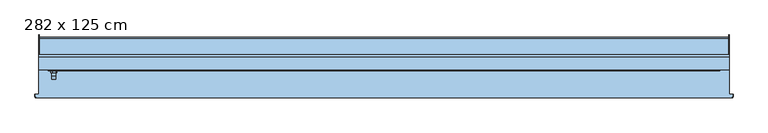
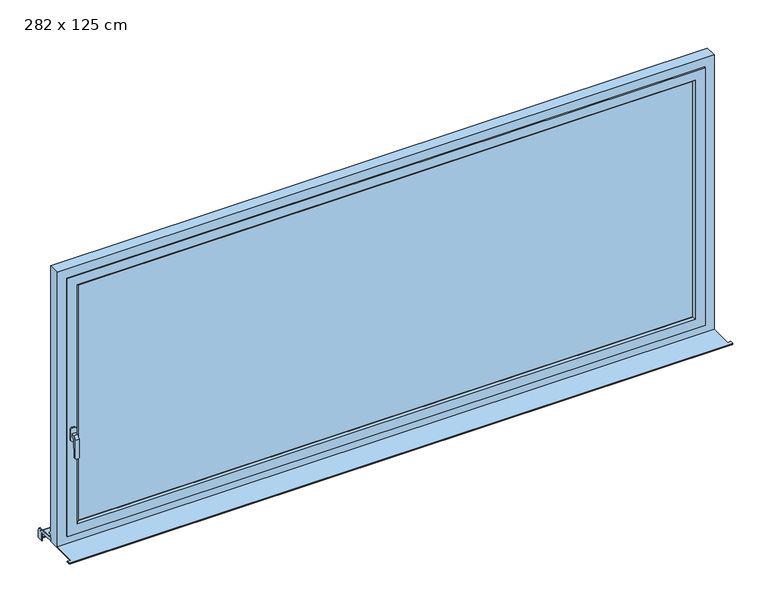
"""IFC4 building model written with IfcOpenShell, lengths in millimetres: window geometry, Fenêtre type 1 : 282 x 125 cm."""

from ifc_helpers import new_model, si_unit, frame, origin, place, context, project, spatial, polyline, circle_curve, outline, extrude, faceted_brep, source, transform, mapped, element, save
from ifc_brep_helpers import plane_surface, cylinder_surface, revolved_surface, advanced_brep


def window_282_x_125_cm_d0343028(model_context):
    return source(origin(), model_context, "Body", "SolidModel", [
        faceted_brep([(-1355.5, -13.0, 1306.0), (-1339.5, -13.0, 1306.0), (-1339.5, -13.0, 1294.0), (-1355.5, -13.0, 1294.0), (-1355.5, -25.4852814, 1306.0), (-1339.5, -25.4852814, 1306.0), (-1339.5, -39.0, 1292.4852814), (-1339.5, -39.0, 1208.5355339), (-1339.5, -29.7580139, 1208.5355339), (-1339.5, -27.0099909, 1287.2286157), (-1339.5, -27.0, 1287.5147186), (-1339.5, -20.5147186, 1294.0), (-1355.5, -20.5147186, 1294.0), (-1355.5, -27.0, 1287.5147186), (-1355.5, -27.0, 1287.2282668), (-1355.5, -29.7580139, 1208.5355339), (-1355.5, -39.0, 1208.5355339), (-1355.5, -39.0, 1292.4852814), (-1343.0355339, -39.0, 1205.0), (-1351.9644661, -39.0, 1205.0), (-1351.9644661, -29.8814775, 1205.0), (-1343.0355339, -29.8814775, 1205.0)], [[[0, 1, 2, 3]], [[1, 0, 4, 5]], [[2, 1, 5, 6, 7, 8, 9, 10, 11]], [[3, 2, 11, 12]], [[0, 3, 12, 13, 14, 15, 16, 17, 4]], [[5, 4, 17, 6]], [[11, 10, 13, 12]], [[18, 19, 20, 21]], [[6, 17, 16, 19, 18, 7]], [[13, 10, 9, 14]], [[14, 9, 8, 21, 20, 15]], [[8, 7, 18, 21]], [[16, 15, 20, 19]]]),
        extrude(outline(polyline([(1330.0, -1354.5), (1325.0, -1359.5), (1275.0, -1359.5), (1270.0, -1354.5), (1270.0, -1340.5), (1275.0, -1335.5), (1325.0, -1335.5), (1330.0, -1340.5), (1330.0, -1354.5)])), frame((0.0, -13.0, 0.0), z_axis=(0.0, 1.0, 0.0), x_axis=(0.0, 0.0, 1.0)), (0.0, 0.0, 1.0), 8.0),
        advanced_brep(
        [(-1410.0, 115.0, 762.0), (-1410.0, 115.0, 799.2138833), (-1410.0, 50.0, 802.620389), (-1410.0, 50.0, 814.1361709), (-1410.0, 127.2850393, 810.0858337), (-1410.0, 141.5, 795.1063906), (-1410.0, 141.5, 762.0), (1410.0, 115.0, 799.2138833), (1410.0, 115.0, 762.0), (1410.0, 141.5, 762.0), (1410.0, 141.5, 795.1063906), (1410.0, 127.2850393, 810.0858337), (1410.0, 50.0, 814.1361709), (1410.0, 50.0, 802.620389), (-1408.0, 50.0, 814.1361709), (1408.0, 50.0, 814.1361709), (1408.0, 50.0, 804.1224475), (-1408.0, 50.0, 804.1224475), (-1408.0, 126.7616798, 800.0995383), (1408.0, 126.7616798, 800.0995383), (1408.0, 131.5, 795.1063906), (1408.0, 131.5, 762.0), (-1408.0, 131.5, 762.0), (-1408.0, 131.5, 795.1063906), (-1408.0, 130.0, 762.0), (-1408.0, 115.0, 762.0), (-1408.0, 141.5, 762.0), (1408.0, 141.5, 762.0), (1408.0, 115.0, 762.0), (1408.0, 130.0, 762.0), (-1408.0, 120.0, 772.0), (1408.0, 120.0, 772.0), (-1408.0, 121.0606602, 773.0606602), (1408.0, 121.0606602, 773.0606602), (-1408.0, 130.0, 764.1213203), (1408.0, 130.0, 764.1213203), (-1408.0, 130.0, 795.0728058), (1408.0, 130.0, 795.0728058), (-1408.0, 115.0, 799.2138833), (-1408.0, 126.649637, 798.6033517), (1408.0, 126.649637, 798.6033517), (1408.0, 115.0, 799.2138833), (1408.0, 127.2850393, 810.0858337), (1408.0, 141.5, 795.1063906), (-1408.0, 141.5, 795.1063906), (-1408.0, 127.2850393, 810.0858337)],
        [
            (0, 1),
            (1, 2),
            (2, 3),
            (3, 4),
            (4, 5, circle_curve(frame((-1410.0, 126.5, 795.1063906), z_axis=(-1.0, 0.0, 0.0), x_axis=(0.0, 0.05233595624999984, 0.9986295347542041)), 15.0)),
            (5, 6),
            (6, 0),
            (7, 8),
            (8, 9),
            (9, 10),
            (10, 11, circle_curve(frame((1410.0, 126.5, 795.1063906), z_axis=(1.0, 0.0, 0.0), x_axis=(0.0, 1.0, 0.0)), 15.0)),
            (11, 12),
            (12, 13),
            (13, 7),
            (14, 3),
            (2, 13),
            (12, 15),
            (15, 16),
            (16, 17),
            (17, 14),
            (18, 17),
            (16, 19),
            (19, 18),
            (20, 21),
            (21, 22),
            (22, 23),
            (23, 20),
            (24, 25),
            (25, 0),
            (6, 26),
            (26, 22),
            (21, 27),
            (27, 9),
            (8, 28),
            (28, 29),
            (29, 24),
            (30, 24),
            (29, 31),
            (31, 30),
            (32, 30),
            (31, 33),
            (33, 32),
            (34, 32),
            (33, 35),
            (35, 34),
            (36, 34),
            (35, 37),
            (37, 36),
            (38, 39),
            (39, 40),
            (40, 41),
            (41, 7),
            (1, 38),
            (38, 25),
            (36, 39, circle_curve(frame((-1408.0, 126.4646089, 795.0728058), z_axis=(1.0, 0.0, 0.0), x_axis=(0.0, -1.0, 0.0)), 3.5353911)),
            (28, 41),
            (40, 37, circle_curve(frame((1408.0, 126.4646089, 795.0728058), z_axis=(-1.0, 0.0, 0.0), x_axis=(0.0, -1.0, 0.0)), 3.5353911)),
            (19, 20, circle_curve(frame((1408.0, 126.5, 795.1063906), z_axis=(-1.0, 0.0, 0.0), x_axis=(0.0, -1.0, 0.0)), 5.0)),
            (23, 18, circle_curve(frame((-1408.0, 126.5, 795.1063906), z_axis=(1.0, 0.0, 0.0), x_axis=(0.0, -1.0, 0.0)), 5.0)),
            (15, 42),
            (42, 43, circle_curve(frame((1408.0, 126.5, 795.1063906), z_axis=(-1.0, 0.0, 0.0), x_axis=(0.0, 1.0, 0.0)), 15.0)),
            (43, 27),
            (43, 10),
            (42, 11),
            (26, 44),
            (44, 45, circle_curve(frame((-1408.0, 126.5, 795.1063906), z_axis=(1.0, 0.0, 0.0), x_axis=(0.0, 0.05233595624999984, 0.9986295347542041)), 15.0)),
            (45, 14),
            (45, 4),
            (44, 5),
        ],
        [
            plane_surface(frame((-1410.0, 50.0, 802.620389), z_axis=(-1.0, 0.0, 0.0), x_axis=(0.0, 0.0, 1.0))),
            plane_surface(frame((1410.0, 50.0, 802.620389), z_axis=(1.0, 0.0, 0.0), x_axis=(0.0, 0.0, -1.0))),
            plane_surface(frame((-1410.0, 50.0, 802.620389), z_axis=(0.0, -1.0, 0.0), x_axis=(1.0, 0.0, 0.0))),
            plane_surface(frame((-1410.0, 50.0, 804.1224475), z_axis=(0.0, 0.05233595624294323, 0.9986295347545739), x_axis=(1.0, 0.0, 0.0))),
            plane_surface(frame((-1410.0, 131.5, 795.1063906), z_axis=(0.0, 1.0, 0.0), x_axis=(1.0, 0.0, 0.0))),
            plane_surface(frame((-1410.0, 131.5, 762.0), z_axis=(0.0, 0.0, -1.0), x_axis=(1.0, 0.0, 0.0))),
            plane_surface(frame((-1410.0, 130.0, 762.0), z_axis=(0.0, -0.7071067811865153, -0.7071067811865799), x_axis=(1.0, 0.0, 0.0))),
            plane_surface(frame((-1410.0, 120.0, 772.0), z_axis=(0.0, -0.7071067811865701, 0.707106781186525), x_axis=(1.0, 0.0, 0.0))),
            plane_surface(frame((-1410.0, 121.0606602, 773.0606602), z_axis=(0.0, 0.7071067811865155, 0.7071067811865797), x_axis=(1.0, 0.0, 0.0))),
            plane_surface(frame((-1410.0, 130.0, 764.1213203), z_axis=(0.0, -1.0, 0.0), x_axis=(1.0, 0.0, 0.0))),
            plane_surface(frame((-1410.0, 126.649637, 798.6033517), z_axis=(0.0, -0.05233595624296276, -0.998629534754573), x_axis=(1.0, 0.0, 0.0))),
            plane_surface(frame((-1408.0, 130.0, 798.4277666), z_axis=(1.0, 0.0, 0.0), x_axis=(0.0, -0.9986295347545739, 0.05233595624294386))),
            plane_surface(frame((-1410.0, 115.0, 762.0), z_axis=(0.0, -1.0, 0.0), x_axis=(1.0, 0.0, 0.0))),
            plane_surface(frame((1408.0, 130.0, 798.4277666), z_axis=(-1.0, 0.0, 0.0), x_axis=(0.0, 0.0, -1.0))),
            plane_surface(frame((1408.0, 115.0, 762.0), z_axis=(0.0, -1.0, 0.0), x_axis=(1.0, 0.0, 0.0))),
            cylinder_surface(frame((1410.0, 126.5, 795.1063906), z_axis=(-1.0, 0.0, 0.0), x_axis=(0.0, -1.0, 0.0)), 5.0),
            revolved_surface(polyline([(1408.0, 122.9292178, 795.0728058), (-1408.0, 122.9292178, 795.0728058)]), (1410.0, 126.4646089, 795.0728058), (1.0, 0.0, 0.0)),
            plane_surface(frame((1408.0, 131.5, 762.0), z_axis=(-1.0, 0.0, 0.0), x_axis=(0.0, 0.0, 1.0))),
            plane_surface(frame((1408.0, 141.5, 762.0), z_axis=(0.0, 1.0, 0.0), x_axis=(0.0, 0.0, 1.0))),
            cylinder_surface(frame((1410.0, 126.5, 795.1063906), z_axis=(1.0, 0.0, 0.0), x_axis=(0.0, 1.0, 0.0)), 15.0),
            plane_surface(frame((1408.0, 127.2850393, 810.0858337), z_axis=(0.0, 0.05233595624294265, 0.9986295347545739), x_axis=(0.0, -0.9986295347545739, 0.05233595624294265))),
            plane_surface(frame((-1408.0, 50.0, 814.1361709), z_axis=(1.0, 0.0, 0.0), x_axis=(0.0, -0.9986295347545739, 0.05233595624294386))),
            plane_surface(frame((-1410.0, 50.0, 814.1361709), z_axis=(0.0, 0.05233595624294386, 0.9986295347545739), x_axis=(1.0, 0.0, 0.0))),
            cylinder_surface(frame((-1410.0, 126.5, 795.1063906), z_axis=(-1.0, 0.0, 0.0), x_axis=(0.0, 0.05233595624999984, 0.9986295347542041)), 15.0),
            plane_surface(frame((-1408.0, 141.5, 795.1063906), z_axis=(0.0, 1.0, 0.0), x_axis=(0.0, 0.0, -1.0))),
        ],
        [
            (0, [[1, 2, 3, 4, 5, 6, 7]]),
            (1, [[8, 9, 10, 11, 12, 13, 14]]),
            (2, [[15, -3, 16, -13, 17, 18, 19, 20]]),
            (3, [[21, -19, 22, 23]]),
            (4, [[24, 25, 26, 27]]),
            (5, [[28, 29, -7, 30, 31, -25, 32, 33, -9, 34, 35, 36]]),
            (6, [[37, -36, 38, 39]]),
            (7, [[40, -39, 41, 42]]),
            (8, [[43, -42, 44, 45]]),
            (9, [[46, -45, 47, 48]]),
            (10, [[49, 50, 51, 52, -14, -16, -2, 53]]),
            (11, [[54, -28, -37, -40, -43, -46, 55, -49]]),
            (12, [[-54, -53, -1, -29]]),
            (13, [[-35, 56, -51, 57, -47, -44, -41, -38]]),
            (14, [[-56, -34, -8, -52]]),
            (15, [[58, -27, 59, -23]]),
            (16, [[-55, -48, -57, -50]]),
            (17, [[-32, -24, -58, -22, -18, 60, 61, 62]]),
            (18, [[-33, -62, 63, -10]]),
            (19, [[-11, -63, -61, 64]]),
            (20, [[-64, -60, -17, -12]]),
            (21, [[-20, -21, -59, -26, -31, 65, 66, 67]]),
            (22, [[-4, -15, -67, 68]]),
            (23, [[-5, -68, -66, 69]]),
            (24, [[-6, -69, -65, -30]]),
        ],
    ),
        extrude(outline(polyline([(-1320.0, 5.0), (-1320.0, 25.0), (1320.0, 25.0), (1320.0, 5.0), (-1320.0, 5.0)])), frame((0.0, 0.0, 890.0), z_axis=(0.0, 0.0, 1.0), x_axis=(1.0, 0.0, 0.0)), (0.0, 0.0, 1.0), 1070.0),
        faceted_brep([(-1370.0, -5.0, 840.0), (-1370.0, 35.0, 840.0), (1370.0, 35.0, 840.0), (1370.0, -5.0, 840.0), (1370.0, 35.0, 2010.0), (1370.0, -5.0, 2010.0), (-1370.0, 35.0, 2010.0), (1327.0710678, 35.0, 1967.0710678), (-1327.0710678, 35.0, 1967.0710678), (-1327.0710678, 35.0, 882.9289322), (1327.0710678, 35.0, 882.9289322), (-1370.0, -5.0, 2010.0), (1327.0710678, -5.0, 882.9289322), (-1327.0710678, -5.0, 882.9289322), (-1327.0710678, -5.0, 1967.0710678), (1327.0710678, -5.0, 1967.0710678), (-1320.0, 2.0710678, 890.0), (1320.0, 2.0710678, 890.0), (1320.0, 2.0710678, 1960.0), (1320.0, 27.9289322, 890.0), (1320.0, 27.9289322, 1960.0), (-1320.0, 27.9289322, 890.0), (-1320.0, 2.0710678, 1960.0), (-1320.0, 27.9289322, 1960.0)], [[[0, 1, 2, 3]], [[3, 2, 4, 5]], [[2, 1, 6, 4], [7, 8, 9, 10]], [[5, 11, 0, 3], [12, 13, 14, 15]], [[16, 13, 12, 17]], [[17, 12, 15, 18]], [[19, 17, 18, 20]], [[9, 21, 19, 10]], [[10, 19, 20, 7]], [[11, 6, 1, 0]], [[22, 14, 13, 16]], [[23, 22, 16, 21]], [[8, 23, 21, 9]], [[21, 16, 17, 19]], [[5, 4, 6, 11]], [[18, 15, 14, 22]], [[7, 20, 23, 8]], [[20, 18, 22, 23]]]),
        faceted_brep([(1410.0, 50.0, 800.0), (1410.0, 50.0, 830.0), (1410.0, 60.0, 830.0), (1410.0, 60.0, 835.0), (1410.0, 50.0, 845.0), (1410.0, 50.0, 2050.0), (1410.0, 0.0, 2050.0), (1410.0, 0.0, 800.0), (-1410.0, 50.0, 800.0), (-1410.0, 50.0, 830.0), (-1410.0, 60.0, 830.0), (-1410.0, 60.0, 835.0), (-1410.0, 50.0, 845.0), (-1365.0, 50.0, 845.0), (-1360.0, 45.0, 850.0), (1360.0, 45.0, 850.0), (1365.0, 50.0, 845.0), (-1410.0, 50.0, 2050.0), (1365.0, 50.0, 2005.0), (-1365.0, 50.0, 2005.0), (-1410.0, 0.0, 2050.0), (-1410.0, 0.0, 800.0), (1370.0, 0.0, 840.0), (-1370.0, 0.0, 840.0), (-1370.0, 0.0, 2010.0), (1370.0, 0.0, 2010.0), (1370.0, 35.0, 840.0), (-1370.0, 35.0, 840.0), (-1370.0, 35.0, 2010.0), (1370.0, 35.0, 2010.0), (1360.0, 35.0, 850.0), (-1360.0, 35.0, 850.0), (-1360.0, 35.0, 2000.0), (1360.0, 35.0, 2000.0), (-1360.0, 45.0, 2000.0), (1360.0, 45.0, 2000.0)], [[[0, 1, 2, 3, 4, 5, 6, 7]], [[1, 0, 8, 9]], [[2, 1, 9, 10]], [[3, 2, 10, 11]], [[3, 11, 12, 13, 14, 15, 16, 4]], [[17, 5, 4, 16, 18, 19, 13, 12]], [[7, 6, 20, 21], [22, 23, 24, 25]], [[0, 7, 21, 8]], [[8, 21, 20, 17, 12, 11, 10, 9]], [[23, 22, 26, 27]], [[27, 28, 24, 23]], [[22, 25, 29, 26]], [[29, 28, 27, 26], [30, 31, 32, 33]], [[31, 30, 15, 14]], [[34, 32, 31, 14]], [[33, 35, 15, 30]], [[35, 18, 16, 15]], [[19, 34, 14, 13]], [[5, 17, 20, 6]], [[28, 29, 25, 24]], [[33, 32, 34, 35]], [[19, 18, 35, 34]]]),
        advanced_brep(
        [(1410.0, -100.0, 805.0), (1410.0, 0.0, 805.0), (-1410.0, 0.0, 805.0), (-1410.0, -100.0, 805.0), (-1423.9971508, -100.0, 805.0), (-1423.9971508, -110.0, 805.0), (-1420.0, -113.9971508, 805.0), (1420.0, -113.9971508, 805.0), (1423.9971508, -110.0, 805.0), (1423.9971508, -100.0, 805.0), (-1410.0, -100.0, 800.0), (-1410.0, 0.0, 800.0), (1410.0, 0.0, 800.0), (1410.0, -100.0, 800.0), (1423.9971508, -100.0, 800.0), (1423.9971508, -110.0, 800.0), (1420.0, -113.9971508, 800.0), (-1420.0, -113.9971508, 800.0), (-1423.9971508, -110.0, 800.0), (-1423.9971508, -100.0, 800.0), (-1425.0, -110.0, 801.0028492), (-1425.0, -110.0, 803.9971508), (-1425.0, -100.0, 803.9971508), (-1425.0, -100.0, 801.0028492), (1425.0, -100.0, 803.9971508), (1425.0, -100.0, 801.0028492), (1425.0, -110.0, 803.9971508), (1425.0, -110.0, 801.0028492), (1420.0, -115.0, 801.0028492), (1420.0, -115.0, 803.9971508), (-1420.0, -115.0, 803.9971508), (-1420.0, -115.0, 801.0028492)],
        [
            (0, 1),
            (1, 2),
            (2, 3),
            (3, 4),
            (4, 5),
            (5, 6, circle_curve(frame((-1420.0, -110.0, 805.0), z_axis=(0.0, 0.0, 1.0), x_axis=(-1.0, 0.0, 0.0)), 3.9971508)),
            (6, 7),
            (7, 8, circle_curve(frame((1420.0, -110.0, 805.0), z_axis=(0.0, 0.0, 1.0), x_axis=(0.0, -1.0, 0.0)), 3.9971508)),
            (8, 9),
            (9, 0),
            (10, 11),
            (11, 12),
            (12, 13),
            (13, 14),
            (14, 15),
            (15, 16, circle_curve(frame((1420.0, -110.0, 800.0), z_axis=(0.0, 0.0, -1.0), x_axis=(0.0, -1.0, 0.0)), 3.9971508)),
            (16, 17),
            (17, 18, circle_curve(frame((-1420.0, -110.0, 800.0), z_axis=(0.0, 0.0, -1.0), x_axis=(-1.0, 0.0, 0.0)), 3.9971508)),
            (18, 19),
            (19, 10),
            (20, 21),
            (21, 22),
            (22, 23),
            (23, 20),
            (3, 10),
            (19, 23),
            (22, 4),
            (2, 11),
            (1, 12),
            (0, 13),
            (9, 24),
            (24, 25),
            (25, 14),
            (24, 26),
            (26, 27),
            (27, 25),
            (28, 29),
            (29, 30),
            (30, 31),
            (31, 28),
            (28, 27, circle_curve(frame((1420.0, -110.0, 801.0028492), z_axis=(0.0, 0.0, 1.0), x_axis=(0.0, -1.0, 0.0)), 5.0)),
            (26, 29, circle_curve(frame((1420.0, -110.0, 803.9971508), z_axis=(0.0, 0.0, -1.0), x_axis=(0.0, -1.0, 0.0)), 5.0)),
            (20, 31, circle_curve(frame((-1420.0, -110.0, 801.0028492), z_axis=(0.0, 0.0, 1.0), x_axis=(0.0, -1.0, 0.0)), 5.0)),
            (30, 21, circle_curve(frame((-1420.0, -110.0, 803.9971508), z_axis=(0.0, 0.0, -1.0), x_axis=(0.0, -1.0, 0.0)), 5.0)),
            (21, 5),
            (18, 20),
            (30, 6),
            (17, 31),
            (29, 7),
            (16, 28),
            (26, 8),
            (15, 27),
        ],
        [
            plane_surface(frame((-1425.0, -100.0, 805.0), z_axis=(0.0, 0.0, 1.0), x_axis=(0.0, -1.0, 0.0))),
            plane_surface(frame((-1425.0, -100.0, 800.0), z_axis=(0.0, 0.0, -1.0), x_axis=(0.0, 1.0, 0.0))),
            plane_surface(frame((-1425.0, -110.0, 800.0), z_axis=(-1.0, 0.0, 0.0), x_axis=(0.0, 0.0, 1.0))),
            plane_surface(frame((-1425.0, -100.0, 800.0), z_axis=(0.0, 1.0, 0.0), x_axis=(0.0, 0.0, 1.0))),
            plane_surface(frame((-1410.0, -100.0, 800.0), z_axis=(-1.0, 0.0, 0.0), x_axis=(0.0, 0.0, 1.0))),
            plane_surface(frame((-1410.0, 0.0, 800.0), z_axis=(0.0, 1.0, 0.0), x_axis=(0.0, 0.0, 1.0))),
            plane_surface(frame((1410.0, 0.0, 800.0), z_axis=(1.0, 0.0, 0.0), x_axis=(0.0, 0.0, 1.0))),
            plane_surface(frame((1410.0, -100.0, 800.0), z_axis=(0.0, 1.0, 0.0), x_axis=(0.0, 0.0, 1.0))),
            plane_surface(frame((1425.0, -100.0, 800.0), z_axis=(1.0, 0.0, 0.0), x_axis=(0.0, 0.0, 1.0))),
            plane_surface(frame((1420.0, -115.0, 800.0), z_axis=(0.0, -1.0, 0.0), x_axis=(0.0, 0.0, 1.0))),
            cylinder_surface(frame((1420.0, -110.0, 805.0), z_axis=(0.0, 0.0, -1.0), x_axis=(0.0, -1.0, 0.0)), 5.0),
            cylinder_surface(frame((-1420.0, -110.0, 805.0), z_axis=(0.0, 0.0, -1.0), x_axis=(0.0, -1.0, 0.0)), 5.0),
            plane_surface(frame((-1423.9971508, -100.0, 805.0), z_axis=(-0.7071067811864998, 0.0, 0.7071067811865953), x_axis=(0.0, -1.0, 0.0))),
            plane_surface(frame((-1425.0, -100.0, 801.0028492), z_axis=(-0.707106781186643, 0.0, -0.7071067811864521), x_axis=(0.0, -1.0, 0.0))),
            revolved_surface(polyline([(-1425.0, -110.0, 803.9971508), (-1423.9971508, -110.0, 805.0)]), (-1420.0, -110.0, 805.0), (0.0, 0.0, 1.0)),
            revolved_surface(polyline([(-1423.9971508, -110.0, 800.0), (-1425.0, -110.0, 801.0028492)]), (-1420.0, -110.0, 805.0), (0.0, 0.0, 1.0)),
            plane_surface(frame((-1420.0, -113.9971508, 805.0), z_axis=(0.0, -0.7071067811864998, 0.7071067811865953), x_axis=(1.0, 0.0, 0.0))),
            plane_surface(frame((-1420.0, -115.0, 801.0028492), z_axis=(0.0, -0.707106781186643, -0.7071067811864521), x_axis=(1.0, 0.0, 0.0))),
            revolved_surface(polyline([(1420.0, -115.0, 803.9971508), (1420.0, -113.9971508, 805.0)]), (1420.0, -110.0, 805.0), (0.0, 0.0, 1.0)),
            revolved_surface(polyline([(1420.0, -113.9971508, 800.0), (1420.0, -115.0, 801.0028492)]), (1420.0, -110.0, 805.0), (0.0, 0.0, 1.0)),
            plane_surface(frame((1423.9971508, -110.0, 805.0), z_axis=(0.7071067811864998, 0.0, 0.7071067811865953), x_axis=(0.0, 1.0, 0.0))),
            plane_surface(frame((1425.0, -110.0, 801.0028492), z_axis=(0.707106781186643, 0.0, -0.7071067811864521), x_axis=(0.0, 1.0, 0.0))),
        ],
        [
            (0, [[1, 2, 3, 4, 5, 6, 7, 8, 9, 10]]),
            (1, [[11, 12, 13, 14, 15, 16, 17, 18, 19, 20]]),
            (2, [[21, 22, 23, 24]]),
            (3, [[25, -20, 26, -23, 27, -4]]),
            (4, [[-3, 28, -11, -25]]),
            (5, [[-2, 29, -12, -28]]),
            (6, [[-1, 30, -13, -29]]),
            (7, [[-30, -10, 31, 32, 33, -14]]),
            (8, [[-32, 34, 35, 36]]),
            (9, [[37, 38, 39, 40]]),
            (10, [[-37, 41, -35, 42]]),
            (11, [[-21, 43, -39, 44]]),
            (12, [[45, -5, -27, -22]]),
            (13, [[46, -24, -26, -19]]),
            (14, [[-45, -44, 47, -6]]),
            (15, [[-46, -18, 48, -43]]),
            (16, [[-47, -38, 49, -7]]),
            (17, [[-48, -17, 50, -40]]),
            (18, [[-49, -42, 51, -8]]),
            (19, [[-50, -16, 52, -41]]),
            (20, [[-51, -34, -31, -9]]),
            (21, [[-52, -15, -33, -36]]),
        ],
    ),
    ])


if __name__ == "__main__":
    model = new_model("IFC4")
    model_context = context("Model", 3, world=origin())
    ifc_project = project(units=[si_unit("LENGTHUNIT", "METRE", prefix="MILLI")], contexts=[model_context])
    site = spatial("IfcSite", under=ifc_project)
    building = spatial("IfcBuilding", under=site)
    placement = place(None, origin())
    window_282_x_125_cm_shape = window_282_x_125_cm_d0343028(model_context)
    element("IfcWindow", 1, ObjectType="Fenêtre type 1 : 282 x 125 cm", at=placement, inside=building, context=model_context, shape_type="MappedRepresentation", body=[
        mapped(window_282_x_125_cm_shape, transform((0.0, 0.0, 0.0), x_axis=(1.0, 0.0, 0.0), y_axis=(0.0, 1.0, 0.0), z_axis=(0.0, 0.0, 1.0))),
    ])
    save(model, "model.ifc")
